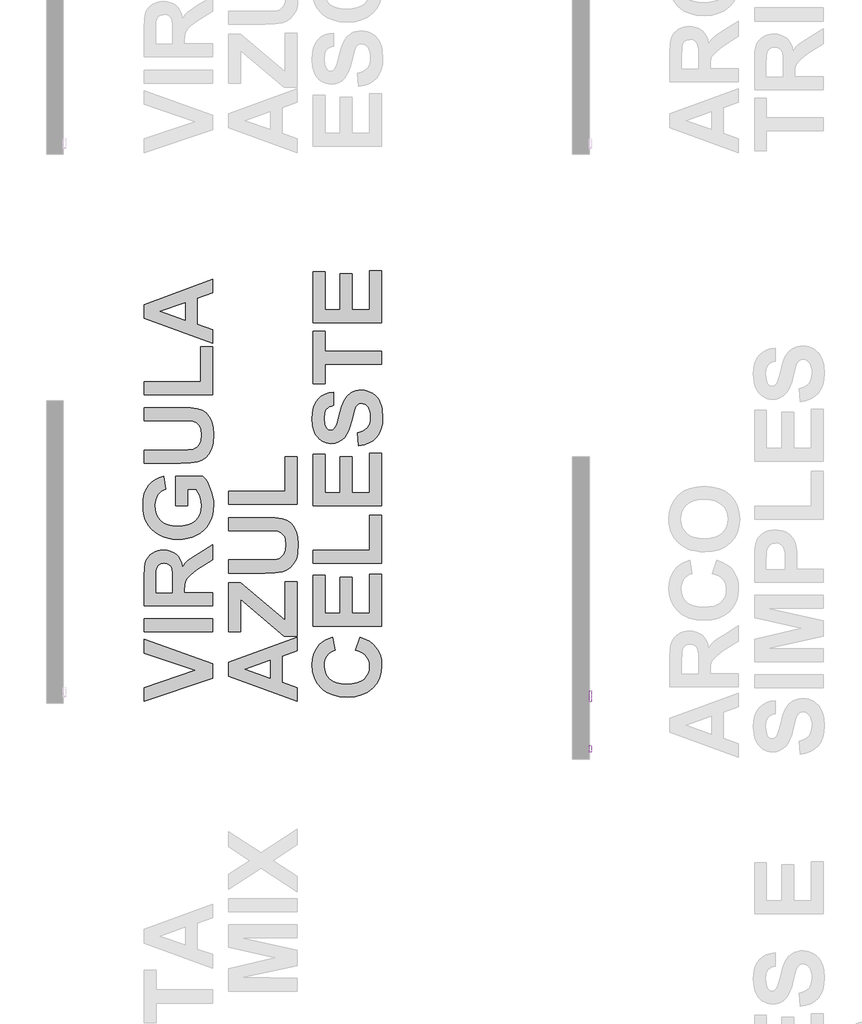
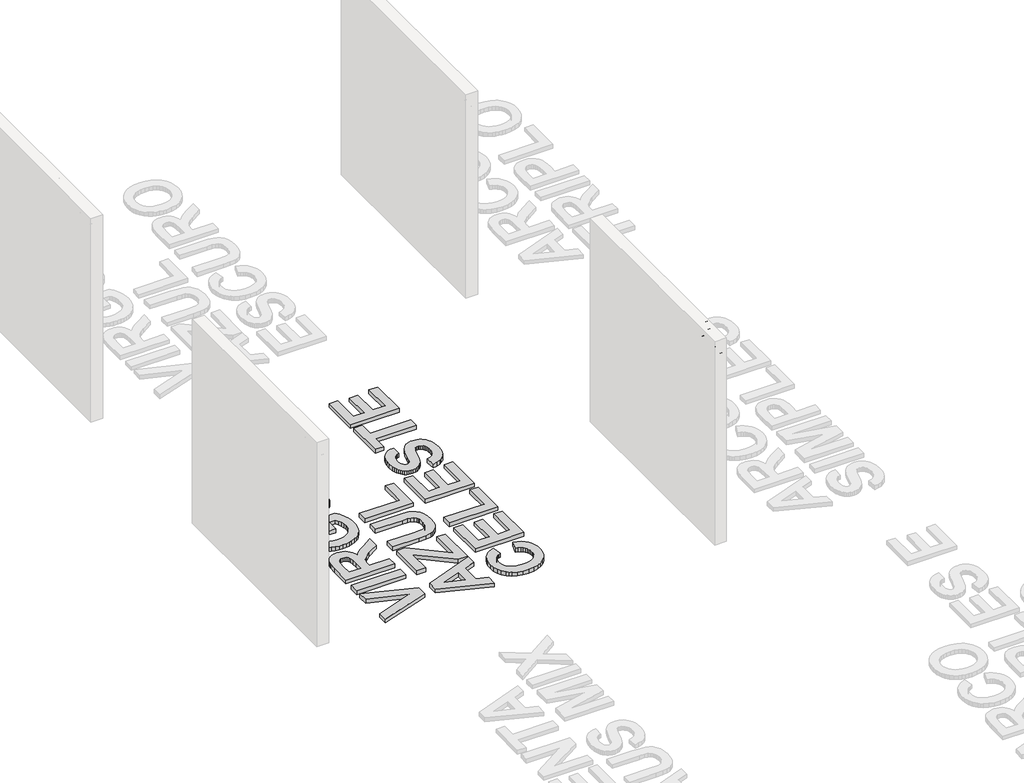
# One storey, part 7 of 12: 3 proxies.
"""IFC4 building model written with IfcOpenShell, lengths in millimetres."""

from ifc_helpers import new_model, si_unit, frame, origin, origin_with_axes, place, context, project, spatial, polyline, outline, extrude, element, save

model = new_model("IFC4")

# Units and contexts
model_context = context("Model", 3, world=origin())
ifc_project = project(units=[si_unit("LENGTHUNIT", "METRE", prefix="MILLI")], contexts=[model_context])

# Site, building, storey
site = spatial("IfcSite", under=ifc_project)
building = spatial("IfcBuilding", under=site)
storey = spatial("IfcBuildingStorey", under=building, Name="PORTOBELLO - SHOWROOM", Elevation=0.0)

# Proxies
placement = place(None, origin())
element("IfcBuildingElementProxy", 1, Name="10mm Arial", ObjectType="10mm Arial", at=placement, inside=storey, context=model_context, shape_type="SweptSolid", body=[
    extrude(outline(polyline([(-3776.6101833, 2548.8308244), (-3736.5110458, 2649.2871345), (-3725.8179425, 2649.2871345), (-3685.718805, 2548.8308244), (-3698.9870823, 2548.8308244), (-3710.489526, 2580.2234213), (-3751.8639877, 2580.2234213), (-3763.341906, 2548.8308244), (-3776.6101833, 2548.8308244)]), holes=[polyline([(-3747.2532, 2592.7804601), (-3715.0757882, 2592.7804601), (-3724.1256853, 2617.4776047), (-3731.1644941, 2636.7300958), (-3737.418488, 2619.6358457), (-3747.2532, 2592.7804601)])]), frame((13302.9163978, 0.0, 0.0), z_axis=(1.0, 0.0, 0.0), x_axis=(0.0, 1.0, 0.0)), (0.0, 0.0, 1.0), 20.0),
    extrude(outline(polyline([(-3673.8730047, 2548.8308244), (-3673.8730047, 2622.6034272), (-3662.8855958, 2622.6034272), (-3662.8855958, 2611.6895946), (-3655.0864975, 2621.7450358), (-3647.2383483, 2624.173057), (-3634.6322586, 2620.2980333), (-3638.8261133, 2609.0408443), (-3647.6552812, 2611.6160182), (-3654.7554037, 2609.1389461), (-3659.2803523, 2602.2718156), (-3661.315966, 2587.6055867), (-3661.315966, 2548.8308244), (-3673.8730047, 2548.8308244)])), frame((13302.9163978, 0.0, 0.0), z_axis=(1.0, 0.0, 0.0), x_axis=(0.0, 1.0, 0.0)), (0.0, 0.0, 1.0), 20.0),
    extrude(outline(polyline([(-3579.695214, 2575.5145318), (-3567.1381752, 2573.9449019), (-3570.6391855, 2562.7766177), (-3577.2181419, 2554.3367916), (-3586.2557762, 2549.0300938), (-3597.1328205, 2547.2611945), (-3610.4900027, 2549.7290696), (-3620.9347856, 2557.1326947), (-3627.6762232, 2569.1471076), (-3629.923369, 2585.4473456), (-3626.0851336, 2606.3062548), (-3614.3864861, 2619.7094221), (-3597.3044988, 2624.173057), (-3586.6941689, 2622.6402154), (-3578.2114233, 2618.0416904), (-3572.1260419, 2610.6227368), (-3568.707805, 2600.6286093), (-3581.2648438, 2599.0589795), (-3587.0896421, 2608.4644958), (-3597.2063969, 2611.6160182), (-3605.3212606, 2610.0647825), (-3611.7622612, 2605.4110752), (-3615.965313, 2597.4035105), (-3617.3663303, 2585.7907022), (-3615.9959698, 2574.021544), (-3611.8848885, 2565.9863881), (-3605.5603839, 2561.360272), (-3597.5497535, 2559.8182333), (-3585.716216, 2563.6687315), (-3579.695214, 2575.5145318)])), frame((13302.9163978, 0.0, 0.0), z_axis=(1.0, 0.0, 0.0), x_axis=(0.0, 1.0, 0.0)), (0.0, 0.0, 1.0), 20.0),
    extrude(outline(polyline([(-3559.290026, 2585.7171258), (-3556.5738306, 2603.5042202), (-3548.4252444, 2616.0060767), (-3538.3575404, 2622.1313119), (-3526.3032737, 2624.173057), (-3513.1116385, 2621.6867878), (-3502.574885, 2614.2279804), (-3495.6679006, 2602.3852458), (-3493.3655724, 2586.7471954), (-3497.4367999, 2564.4044955), (-3509.2948628, 2551.7616176), (-3526.3032737, 2547.2611945), (-3539.6543245, 2549.7382666), (-3550.1788152, 2557.1694829), (-3557.0122233, 2569.2605379), (-3559.290026, 2585.7171258)]), holes=[polyline([(-3546.7329872, 2585.7416512), (-3545.2798533, 2574.3771633), (-3540.9204517, 2566.2806937), (-3534.3598894, 2561.4338484), (-3526.3032737, 2559.8182333), (-3518.2834462, 2561.4430455), (-3511.7351467, 2566.3174819), (-3507.3757451, 2574.5212504), (-3505.9226112, 2586.1340587), (-3507.3849421, 2597.1674529), (-3511.7719349, 2605.1535578), (-3518.3294315, 2610.0004031), (-3526.3032737, 2611.6160182), (-3534.3598894, 2610.0065345), (-3540.9204517, 2605.1780833), (-3545.2798533, 2597.1000078), (-3546.7329872, 2585.7416512)])]), frame((13302.9163978, 0.0, 0.0), z_axis=(1.0, 0.0, 0.0), x_axis=(0.0, 1.0, 0.0)), (0.0, 0.0, 1.0), 20.0),
    extrude(outline(polyline([(-3443.1374174, 2583.362681), (-3430.5803786, 2583.362681), (-3426.5336766, 2570.7933795), (-3416.6499137, 2562.8471284), (-3401.5912774, 2559.8182333), (-3388.4701529, 2562.1113644), (-3379.9966043, 2568.4144093), (-3377.2129638, 2576.838907), (-3379.2976285, 2584.6747934), (-3387.8324908, 2590.3769644), (-3406.1162259, 2595.171693), (-3425.7979127, 2601.3643733), (-3436.4787532, 2610.708576), (-3439.9981577, 2623.1920383), (-3435.6448874, 2637.4045461), (-3422.9284331, 2647.4354618), (-3404.3136041, 2650.8567644), (-3384.4479764, 2647.2760463), (-3371.2042246, 2636.7546212), (-3366.2255549, 2621.0337973), (-3378.7825937, 2621.0337973), (-3381.0879875, 2628.5263273), (-3385.8949789, 2633.9341926), (-3403.8230948, 2638.2997256), (-3421.8002616, 2633.9832435), (-3427.4411189, 2623.5599203), (-3423.4434679, 2614.8533798), (-3402.940178, 2607.8390964), (-3380.7201055, 2601.5360516), (-3368.5677369, 2591.357983), (-3364.6559251, 2577.157738), (-3369.1563481, 2562.1358899), (-3382.1057944, 2551.1730064), (-3401.100768, 2547.2611945), (-3423.529307, 2551.4795747), (-3437.7172893, 2564.1837663), (-3443.1374174, 2583.362681)])), frame((13302.9163978, 0.0, 0.0), z_axis=(1.0, 0.0, 0.0), x_axis=(0.0, 1.0, 0.0)), (0.0, 0.0, 1.0), 20.0),
    extrude(outline(polyline([(13322.9163978, -3334.832958), (13322.9163978, -3347.3899968), (13302.9163978, -3347.3899968), (13302.9163978, -3334.832958), (13322.9163978, -3334.832958)])), frame((0.0, 0.0, 2636.7300958), z_axis=(0.0, 0.0, 1.0), x_axis=(1.0, 0.0, 0.0)), (0.0, 0.0, 1.0), 12.5570388),
    extrude(outline(polyline([(13322.9163978, -3334.832958), (13322.9163978, -3347.3899968), (13302.9163978, -3347.3899968), (13302.9163978, -3334.832958), (13322.9163978, -3334.832958)])), frame((0.0, 0.0, 2548.8308244), z_axis=(0.0, 0.0, 1.0), x_axis=(1.0, 0.0, 0.0)), (0.0, 0.0, 1.0), 73.7726028),
    extrude(outline(polyline([(-3315.9973998, 2548.8308244), (-3315.9973998, 2622.6034272), (-3303.4403611, 2622.6034272), (-3303.4403611, 2610.4633213), (-3294.8073969, 2620.4083979), (-3282.5201383, 2624.173057), (-3269.938574, 2620.3348215), (-3263.0223925, 2609.5804045), (-3253.2244687, 2620.5248939), (-3240.8513709, 2624.173057), (-3231.4121321, 2622.6555438), (-3224.4315712, 2618.1030041), (-3220.1181548, 2610.3928106), (-3218.6803494, 2599.402336), (-3218.6803494, 2548.8308244), (-3231.2373881, 2548.8308244), (-3231.2373881, 2594.0067334), (-3232.4023478, 2604.4913703), (-3236.620728, 2609.6539809), (-3243.7944269, 2611.6160182), (-3256.1429992, 2606.5882976), (-3259.8310162, 2600.0461295), (-3261.0603552, 2590.4750662), (-3261.0603552, 2548.8308244), (-3273.617394, 2548.8308244), (-3273.617394, 2595.404685), (-3276.5236617, 2607.5693163), (-3286.0518054, 2611.6160182), (-3295.3469572, 2608.9182169), (-3301.5273747, 2601.0210168), (-3303.4403611, 2586.0359568), (-3303.4403611, 2548.8308244), (-3315.9973998, 2548.8308244)])), frame((13302.9163978, 0.0, 0.0), z_axis=(1.0, 0.0, 0.0), x_axis=(0.0, 1.0, 0.0)), (0.0, 0.0, 1.0), 20.0),
    extrude(outline(polyline([(-3199.8447912, 2520.5774872), (-3199.8447912, 2622.6034272), (-3187.2877524, 2622.6034272), (-3187.2877524, 2610.291643), (-3178.6057374, 2620.7027035), (-3166.8825645, 2624.173057), (-3150.9655368, 2619.3170147), (-3140.5667391, 2605.6318044), (-3137.0595974, 2586.2812115), (-3141.0204602, 2565.9373372), (-3152.5229039, 2552.0804487), (-3168.4031434, 2547.2611945), (-3179.3292386, 2550.4862934), (-3187.2877524, 2558.6410109), (-3187.2877524, 2520.5774872), (-3199.8447912, 2520.5774872)]), holes=[polyline([(-3187.2877524, 2585.1285146), (-3185.9296548, 2573.8713255), (-3181.8553617, 2565.9986508), (-3175.8435567, 2561.3633377), (-3168.6729235, 2559.8182333), (-3161.3857943, 2561.41852), (-3155.2207052, 2566.21938), (-3151.0176534, 2574.3802289), (-3149.6166361, 2586.0604823), (-3150.9839309, 2597.2563577), (-3155.0858151, 2605.239397), (-3161.088423, 2610.0218629), (-3168.1578887, 2611.6160182), (-3175.2549455, 2609.9206954), (-3181.4874797, 2604.8347268), (-3185.8376843, 2596.517528), (-3187.2877524, 2585.1285146)])]), frame((13302.9163978, 0.0, 0.0), z_axis=(1.0, 0.0, 0.0), x_axis=(0.0, 1.0, 0.0)), (0.0, 0.0, 1.0), 20.0),
    extrude(outline(polyline([(13322.9163978, -3110.37589), (13322.9163978, -3122.9329288), (13302.9163978, -3122.9329288), (13302.9163978, -3110.37589), (13322.9163978, -3110.37589)])), frame((0.0, 0.0, 2548.8308244), z_axis=(0.0, 0.0, 1.0), x_axis=(1.0, 0.0, 0.0)), (0.0, 0.0, 1.0), 100.4563101),
    extrude(outline(polyline([(-3039.8896997, 2570.8056422), (-3027.5779156, 2569.2360124), (-3032.0139593, 2559.9592547), (-3039.0926221, 2553.0246791), (-3048.6544883, 2548.7020657), (-3060.5401424, 2547.2611945), (-3075.2738163, 2549.7474637), (-3086.6107131, 2557.2062711), (-3093.8395943, 2569.1532389), (-3096.2492214, 2585.1039891), (-3093.8150688, 2601.5912339), (-3086.5126112, 2613.9214121), (-3075.3289986, 2621.6101458), (-3061.2513809, 2624.173057), (-3047.6121559, 2621.6162771), (-3036.7136518, 2613.9459375), (-3029.5675441, 2601.6402848), (-3027.1855081, 2585.1775655), (-3027.2590845, 2581.7930512), (-3083.6921826, 2581.7930512), (-3081.5186132, 2572.3936662), (-3076.4694328, 2565.483616), (-3069.1823036, 2561.234579), (-3060.2948877, 2559.8182333), (-3047.9831036, 2562.4424582), (-3039.8896997, 2570.8056422)]), holes=[polyline([(-3083.6921826, 2594.3500899), (-3039.7425469, 2594.3500899), (-3044.7702675, 2605.7299063), (-3052.0911192, 2610.1444902), (-3061.3004318, 2611.6160182), (-3076.7637384, 2606.9193914), (-3081.6289778, 2601.4287526), (-3083.6921826, 2594.3500899)])]), frame((13302.9163978, 0.0, 0.0), z_axis=(1.0, 0.0, 0.0), x_axis=(0.0, 1.0, 0.0)), (0.0, 0.0, 1.0), 20.0),
    extrude(outline(polyline([(-3019.3373589, 2570.8056422), (-3006.7803201, 2572.3752721), (-3000.9677846, 2563.0555949), (-2987.6504564, 2559.8182333), (-2974.848163, 2562.7858147), (-2970.6788337, 2569.7510472), (-2974.8726884, 2575.3919044), (-2987.7976092, 2578.9726225), (-3006.7067438, 2585.1162518), (-3014.9595632, 2592.2899507), (-3017.7677291, 2602.4189683), (-3015.5113862, 2611.7754338), (-3009.3554941, 2618.9246072), (-3001.3724548, 2622.6402154), (-2990.5689869, 2624.173057), (-2975.2896214, 2621.7082476), (-2965.5775367, 2615.0373208), (-2961.2610546, 2603.767869), (-2973.8180934, 2602.1982392), (-2978.5392457, 2609.1266834), (-2989.5879682, 2611.6160182), (-3001.6054468, 2609.237048), (-3005.2106903, 2603.6942926), (-3003.7146369, 2600.0399981), (-2999.0302728, 2597.2686204), (-2988.2145421, 2594.5953446), (-2969.7836542, 2588.6847072), (-2961.2242664, 2581.9892549), (-2958.1217949, 2571.0754224), (-2961.7638267, 2559.0579439), (-2972.272989, 2550.3391406), (-2987.8221347, 2547.2611945), (-3000.4834067, 2548.7449853), (-3009.7233761, 2553.1963574), (-3015.8915309, 2560.56626), (-3019.3373589, 2570.8056422)])), frame((13302.9163978, 0.0, 0.0), z_axis=(1.0, 0.0, 0.0), x_axis=(0.0, 1.0, 0.0)), (0.0, 0.0, 1.0), 20.0),
])
element("IfcBuildingElementProxy", 2, Name="10mm Arial Narrow", ObjectType="10mm Arial Narrow", at=placement, inside=storey, context=model_context, shape_type="SweptSolid", body=[
    extrude(outline(polyline([(-3767.7764767, 2398.8308244), (-3767.7764767, 2499.5494281), (-3736.479592, 2499.5494281), (-3720.1838905, 2497.6711074), (-3708.7109044, 2488.1906642), (-3704.4212259, 2471.1715554), (-3706.2075343, 2459.0957299), (-3711.5664595, 2449.4693361), (-3721.3102484, 2443.1680777), (-3736.2511476, 2441.0676582), (-3758.029515, 2441.0676582), (-3758.029515, 2398.8308244), (-3767.7764767, 2398.8308244)]), holes=[polyline([(-3758.029515, 2452.4391135), (-3735.0581601, 2452.4391135), (-3719.1939647, 2456.9699277), (-3714.1681876, 2470.6385184), (-3716.6430021, 2480.8042949), (-3722.6206309, 2486.6042447), (-3735.2866045, 2488.1779729), (-3758.029515, 2488.1779729), (-3758.029515, 2452.4391135)])]), frame((13302.9163978, 0.0, 0.0), z_axis=(1.0, 0.0, 0.0), x_axis=(0.0, 1.0, 0.0)), (0.0, 0.0, 1.0), 20.0),
    extrude(outline(polyline([(-3696.2987579, 2435.3819306), (-3694.344289, 2451.9727061), (-3688.4808824, 2463.9247909), (-3679.6223157, 2471.1493455), (-3668.6823665, 2473.5575304), (-3657.869331, 2471.1493455), (-3648.9853815, 2463.9247909), (-3643.0458268, 2452.1630765), (-3641.0659752, 2436.143412), (-3643.0109255, 2418.9815254), (-3648.8457766, 2406.8390702), (-3657.6948248, 2399.6145156), (-3668.6823665, 2397.2063308), (-3679.5429947, 2399.6208613), (-3688.4174256, 2406.8644529), (-3694.3284248, 2418.8228834), (-3696.2987579, 2435.3819306)]), holes=[polyline([(-3686.5517962, 2435.4073133), (-3685.2477594, 2422.8555619), (-3681.3356488, 2413.9843038), (-3675.494452, 2408.7110453), (-3668.4031567, 2406.9532924), (-3661.6830835, 2408.7269095), (-3655.9910102, 2414.0477606), (-3652.1074552, 2422.9348829), (-3650.8129368, 2435.4073133), (-3652.1169737, 2447.9209906), (-3656.0290843, 2456.7795573), (-3661.870281, 2462.0528159), (-3668.9615764, 2463.8105687), (-3675.7292421, 2462.0432974), (-3681.4117969, 2456.7414833), (-3685.2667964, 2447.873398), (-3686.5517962, 2435.4073133)])]), frame((13302.9163978, 0.0, 0.0), z_axis=(1.0, 0.0, 0.0), x_axis=(0.0, 1.0, 0.0)), (0.0, 0.0, 1.0), 20.0),
    extrude(outline(polyline([(-3569.5882564, 2406.9532924), (-3567.9637628, 2397.2063308), (-3575.3247495, 2397.2063308), (-3583.5995138, 2399.3257873), (-3587.9145749, 2405.1257371), (-3589.0821797, 2419.7715623), (-3589.0821797, 2462.1860751), (-3597.2046478, 2462.1860751), (-3597.2046478, 2465.4350624), (-3598.8291414, 2460.5615815), (-3606.3931897, 2462.1860751), (-3612.4723494, 2459.8635569), (-3616.3432131, 2453.3782738), (-3618.3230647, 2437.9709673), (-3618.3230647, 2398.8308244), (-3628.0700263, 2398.8308244), (-3628.0700263, 2471.9330368), (-3618.3230647, 2471.9330368), (-3618.3230647, 2462.2368406), (-3612.0789174, 2471.3238517), (-3605.6824738, 2473.5575304), (-3597.2046478, 2471.9330368), (-3589.0821797, 2471.9330368), (-3589.0821797, 2488.1779729), (-3579.3352181, 2496.3004409), (-3579.3352181, 2471.9330368), (-3569.5882564, 2471.9330368), (-3569.5882564, 2462.1860751), (-3579.3352181, 2462.1860751), (-3579.3352181, 2417.5378836), (-3578.4722058, 2409.5423291), (-3573.8525521, 2406.9532924), (-3569.5882564, 2406.9532924)])), frame((13302.9163978, 0.0, 0.0), z_axis=(1.0, 0.0, 0.0), x_axis=(0.0, 1.0, 0.0)), (0.0, 0.0, 1.0), 20.0),
    extrude(outline(polyline([(-3563.090282, 2435.3819306), (-3561.1358131, 2451.9727061), (-3555.2724065, 2463.9247909), (-3546.4138398, 2471.1493455), (-3535.4738906, 2473.5575304), (-3524.660855, 2471.1493455), (-3515.7769056, 2463.9247909), (-3509.8373508, 2452.1630765), (-3507.8574993, 2436.143412), (-3509.8024496, 2418.9815254), (-3515.6373007, 2406.8390702), (-3524.4863489, 2399.6145156), (-3535.4738906, 2397.2063308), (-3546.3345188, 2399.6208613), (-3555.2089497, 2406.8644529), (-3561.1199489, 2418.8228834), (-3563.090282, 2435.3819306)]), holes=[polyline([(-3553.3433203, 2435.4073133), (-3552.0392834, 2422.8555619), (-3548.1271729, 2413.9843038), (-3542.2859761, 2408.7110453), (-3535.1946808, 2406.9532924), (-3528.4746076, 2408.7269095), (-3522.7825343, 2414.0477606), (-3518.8989793, 2422.9348829), (-3517.6044609, 2435.4073133), (-3518.9084978, 2447.9209906), (-3522.8206084, 2456.7795573), (-3528.6618051, 2462.0528159), (-3535.7531005, 2463.8105687), (-3542.5207662, 2462.0432974), (-3548.203321, 2456.7414833), (-3552.0583205, 2447.873398), (-3553.3433203, 2435.4073133)])]), frame((13302.9163978, 0.0, 0.0), z_axis=(1.0, 0.0, 0.0), x_axis=(0.0, 1.0, 0.0)), (0.0, 0.0, 1.0), 20.0),
    extrude(outline(polyline([(-3485.1145887, 2398.8308244), (-3494.8615504, 2398.8308244), (-3494.8615504, 2499.5494281), (-3485.1145887, 2499.5494281), (-3485.1145887, 2464.140544), (-3477.715528, 2471.2223208), (-3468.5142947, 2473.5575304), (-3455.632568, 2469.3566915), (-3446.3551865, 2456.6272611), (-3442.8777549, 2435.9403503), (-3444.8100139, 2419.4860068), (-3450.6067909, 2407.2832677), (-3458.9799132, 2399.725565), (-3468.6412082, 2397.2063308), (-3477.9820465, 2399.8207502), (-3485.1145887, 2407.5878602), (-3485.1145887, 2398.8308244)]), holes=[polyline([(-3485.1145887, 2435.9403503), (-3483.0332063, 2418.692797), (-3477.144417, 2409.9611439), (-3468.6919737, 2406.9532924), (-3462.7492461, 2408.7427737), (-3457.5108887, 2414.1112174), (-3452.6247166, 2435.5342269), (-3457.3332098, 2456.9699277), (-3462.5779128, 2462.1004085), (-3468.8950354, 2463.8105687), (-3474.8726642, 2462.0210875), (-3480.1649598, 2456.6526438), (-3485.1145887, 2435.9403503)])]), frame((13302.9163978, 0.0, 0.0), z_axis=(1.0, 0.0, 0.0), x_axis=(0.0, 1.0, 0.0)), (0.0, 0.0, 1.0), 20.0),
    extrude(outline(polyline([(-3390.8939594, 2421.5737349), (-3381.1469978, 2419.9492413), (-3384.8465281, 2410.0626747), (-3390.665515, 2402.9428238), (-3398.3691683, 2398.640454), (-3407.7226979, 2397.2063308), (-3419.3162519, 2399.6208613), (-3428.4603741, 2406.8644529), (-3434.3999289, 2418.6705872), (-3436.3797805, 2434.7727455), (-3434.3904104, 2451.4396692), (-3428.4223001, 2463.6201984), (-3419.4082642, 2471.0731974), (-3408.2811176, 2473.5575304), (-3397.5981684, 2471.1588641), (-3388.8506511, 2463.962865), (-3383.0158, 2452.2233604), (-3381.0708496, 2436.1941774), (-3381.1469978, 2432.9451902), (-3426.6328188, 2432.9451902), (-3420.6298073, 2413.5020323), (-3414.699771, 2408.5904774), (-3407.5957843, 2406.9532924), (-3397.4173166, 2410.608403), (-3390.8939594, 2421.5737349)]), holes=[polyline([(-3425.9728683, 2442.6921518), (-3390.8939594, 2442.6921518), (-3395.1582551, 2456.9572363), (-3400.9835877, 2462.0972356), (-3408.2049694, 2463.8105687), (-3420.4140542, 2458.0994584), (-3425.9728683, 2442.6921518)])]), frame((13302.9163978, 0.0, 0.0), z_axis=(1.0, 0.0, 0.0), x_axis=(0.0, 1.0, 0.0)), (0.0, 0.0, 1.0), 20.0),
    extrude(outline(polyline([(13322.9163978, -3358.4040872), (13322.9163978, -3368.1510489), (13302.9163978, -3368.1510489), (13302.9163978, -3358.4040872), (13322.9163978, -3358.4040872)])), frame((0.0, 0.0, 2398.8308244), z_axis=(0.0, 0.0, 1.0), x_axis=(1.0, 0.0, 0.0)), (0.0, 0.0, 1.0), 100.7186038),
    extrude(outline(polyline([(13322.9163978, -3332.4121895), (13322.9163978, -3342.1591512), (13302.9163978, -3342.1591512), (13302.9163978, -3332.4121895), (13322.9163978, -3332.4121895)])), frame((0.0, 0.0, 2398.8308244), z_axis=(0.0, 0.0, 1.0), x_axis=(1.0, 0.0, 0.0)), (0.0, 0.0, 1.0), 100.7186038),
    extrude(outline(polyline([(-3321.0407342, 2435.3819306), (-3319.0862654, 2451.9727061), (-3313.2228587, 2463.9247909), (-3304.364292, 2471.1493455), (-3293.4243429, 2473.5575304), (-3282.6113073, 2471.1493455), (-3273.7273579, 2463.9247909), (-3267.7878031, 2452.1630765), (-3265.8079515, 2436.143412), (-3267.7529019, 2418.9815254), (-3273.587753, 2406.8390702), (-3282.4368012, 2399.6145156), (-3293.4243429, 2397.2063308), (-3304.2849711, 2399.6208613), (-3313.159402, 2406.8644529), (-3319.0704012, 2418.8228834), (-3321.0407342, 2435.3819306)]), holes=[polyline([(-3311.2937726, 2435.4073133), (-3309.9897357, 2422.8555619), (-3306.0776251, 2413.9843038), (-3300.2364284, 2408.7110453), (-3293.145133, 2406.9532924), (-3286.4250599, 2408.7269095), (-3280.7329866, 2414.0477606), (-3276.8494315, 2422.9348829), (-3275.5549132, 2435.4073133), (-3276.85895, 2447.9209906), (-3280.7710606, 2456.7795573), (-3286.6122574, 2462.0528159), (-3293.7035527, 2463.8105687), (-3300.4712185, 2462.0432974), (-3306.1537733, 2456.7414833), (-3310.0087728, 2447.873398), (-3311.2937726, 2435.4073133)])]), frame((13302.9163978, 0.0, 0.0), z_axis=(1.0, 0.0, 0.0), x_axis=(0.0, 1.0, 0.0)), (0.0, 0.0, 1.0), 20.0),
])
element("IfcBuildingElementProxy", 3, Name="600mm Arial", ObjectType="600mm Arial", at=placement, inside=storey, context=model_context, shape_type="SweptSolid", body=[
    extrude(outline(polyline([(9936.2154342, -3105.3236242), (9324.0597942, -3311.652869), (9324.0597942, -3188.6751734), (9780.7473352, -3034.7253175), (9324.0597942, -2880.3199887), (9324.0597942, -2757.7977661), (9936.2154342, -2975.0583616), (9936.2154342, -3105.3236242)])), origin_with_axes(), (0.0, 0.0, 1.0), 50.0),
    extrude(outline(polyline([(9936.2154342, -2689.7804728), (9324.0597942, -2689.7804728), (9324.0597942, -2573.1793985), (9936.2154342, -2573.1793985), (9936.2154342, -2689.7804728)])), origin_with_axes(), (0.0, 0.0, 1.0), 50.0),
    extrude(outline(polyline([(9936.2154342, -2456.5783242), (9324.0597942, -2456.5783242), (9324.0597942, -2199.0842852), (9328.1970068, -2115.2013509), (9333.3685226, -2083.2233545), (9340.6086446, -2057.8876718), (9350.4962032, -2036.9738724), (9363.6100284, -2018.2615255), (9379.9501204, -2001.7506312), (9399.516479, -1987.4411894), (9421.4645816, -1975.8835634), (9444.9499054, -1967.6281163), (9469.9724504, -1962.674848), (9496.5322166, -1961.0237585), (9529.6394064, -1963.410247), (9559.7290879, -1970.5697124), (9586.8012612, -1982.5021547), (9610.8559262, -1999.2075739), (9631.3142527, -2020.666992), (9647.5974105, -2046.8614309), (9659.7053997, -2077.7908907), (9667.6382201, -2113.4553713), (9692.0060228, -2079.636505), (9718.6511901, -2052.2701721), (9757.2525223, -2023.9549373), (9817.4888195, -1987.2893651), (9936.2154342, -1912.4399776), (9936.2154342, -2048.6263886), (9796.3852397, -2137.2917888), (9742.6963661, -2180.1252238), (9713.4132513, -2206.9032374), (9699.0089193, -2226.2228816), (9689.9563945, -2246.6812081), (9685.1739286, -2273.8387825), (9683.5797733, -2313.2561704), (9683.5797733, -2339.9772499), (9936.2154342, -2339.9772499), (9936.2154342, -2456.5783242)]), holes=[polyline([(9576.6954552, -2339.9772499), (9576.6954552, -2243.8724583), (9574.9304975, -2168.0172346), (9569.6356245, -2127.1954718), (9560.0327366, -2106.4334967), (9545.343734, -2090.7576361), (9525.9671558, -2080.9080336), (9502.3015406, -2077.6248328), (9476.0928681, -2081.9518258), (9455.4637393, -2094.9328048), (9440.907583, -2115.8086482), (9432.9178284, -2143.8202344), (9430.9441123, -2238.5586072), (9430.9441123, -2339.9772499), (9576.6954552, -2339.9772499)])]), origin_with_axes(), (0.0, 0.0, 1.0), 50.0),
    extrude(outline(polyline([(9712.7300418, -1562.6367547), (9605.8457237, -1562.6367547), (9605.8457237, -1300.2843376), (9849.979223, -1300.2843376), (9868.4590889, -1321.5587198), (9885.7907834, -1347.1221389), (9917.0096583, -1411.1160879), (9929.6632661, -1447.5159675), (9938.7015574, -1484.1435836), (9944.1245321, -1520.9989362), (9945.9321904, -1558.0820253), (9943.4176002, -1603.7906333), (9935.8738295, -1646.481733), (9923.3008784, -1686.1553244), (9905.6987468, -1722.8114076), (9883.423273, -1755.7762621), (9856.8302953, -1784.3761675), (9825.9198135, -1808.6111238), (9790.6918278, -1828.4811311), (9752.4842899, -1843.9577223), (9712.6351516, -1855.0124303), (9671.1444129, -1861.645255), (9628.0120738, -1863.8561966), (9581.662957, -1861.3558399), (9537.9612767, -1853.8547699), (9496.9070329, -1841.3529864), (9458.5002256, -1823.8504895), (9423.5758885, -1801.5275706), (9392.9690554, -1774.5645211), (9366.6797263, -1742.9613409), (9344.7079011, -1706.7180301), (9331.4232735, -1675.5371113), (9321.9342538, -1640.7503651), (9316.240842, -1602.3577913), (9314.343038, -1560.35939), (9317.4079914, -1506.6088378), (9326.6028515, -1459.0735936), (9341.9276184, -1417.7536572), (9363.3822919, -1382.6490288), (9390.2457068, -1353.5035047), (9421.7966973, -1330.0608815), (9458.0352636, -1312.3211591), (9498.9614057, -1300.2843376), (9518.394918, -1416.8854119), (9497.0398792, -1425.2072822), (9478.0665842, -1436.5087047), (9461.4750333, -1450.7896793), (9447.2652262, -1468.0502062), (9435.8736581, -1487.9676586), (9427.7368237, -1510.2194098), (9422.854723, -1534.8054599), (9421.2273561, -1561.7258089), (9424.4061777, -1602.0636317), (9433.9426426, -1638.0554835), (9449.8367506, -1669.7013642), (9472.0885018, -1697.0012739), (9500.6030061, -1718.9873326), (9535.2853731, -1734.6916602), (9576.135603, -1744.1142568), (9623.1536957, -1747.2551224), (9673.7538933, -1744.1332349), (9717.607398, -1734.7675724), (9754.7142096, -1719.158135), (9785.0743282, -1697.3049226), (9808.6877537, -1670.3845736), (9825.5544863, -1639.5737266), (9835.6745258, -1604.8723815), (9839.0478723, -1566.2805383), (9835.3471546, -1526.2558531), (9824.2450015, -1486.0413876), (9807.8669535, -1448.5977158), (9788.3385509, -1416.8854119), (9712.7300418, -1416.8854119), (9712.7300418, -1562.6367547)])), origin_with_axes(), (0.0, 0.0, 1.0), 50.0),
    extrude(outline(polyline([(9324.0597942, -1183.6832633), (9324.0597942, -1067.0821891), (9654.2776804, -1067.0821891), (9719.1066631, -1065.8296384), (9756.3036204, -1062.0719866), (9774.0623208, -1056.2552176), (9789.9896404, -1047.4588963), (9804.0855792, -1035.6830228), (9816.3501371, -1020.9275971), (9826.2803963, -1003.1926193), (9833.3734385, -982.4780893), (9839.0478723, -932.1103726), (9833.6960652, -881.7995901), (9827.0063063, -861.9533053), (9817.6406438, -845.6464249), (9793.7852483, -822.3603706), (9765.0335185, -810.6509202), (9723.5285463, -806.210059), (9661.4134232, -804.7297719), (9324.0597942, -804.7297719), (9324.0597942, -688.1286976), (9645.1682215, -688.1286976), (9739.1854288, -690.6717549), (9800.7881448, -698.3009268), (9842.6726778, -712.7621928), (9877.5353363, -735.8015327), (9905.6797688, -767.7415731), (9927.4096239, -808.9049406), (9941.3015488, -861.6828683), (9945.9321904, -928.466589), (9940.8840319, -1006.6940676), (9934.5738338, -1037.7516291), (9925.7395564, -1063.4384055), (9902.5104362, -1104.6207511), (9873.2083433, -1136.1622526), (9840.0726864, -1158.3286026), (9805.3428743, -1171.3854938), (9740.2861551, -1180.6088209), (9650.1784239, -1183.6832633), (9324.0597942, -1183.6832633)])), origin_with_axes(), (0.0, 0.0, 1.0), 50.0),
    extrude(outline(polyline([(9936.2154342, -571.5276234), (9324.0597942, -571.5276234), (9324.0597942, -454.9265491), (9829.3311161, -454.9265491), (9829.3311161, -143.990351), (9936.2154342, -143.990351), (9936.2154342, -571.5276234)])), origin_with_axes(), (0.0, 0.0, 1.0), 50.0),
    extrude(outline(polyline([(9936.2154342, 458.4485328), (9936.2154342, 335.9263102), (9800.1808475, 287.9498265), (9800.1808475, 56.7213941), (9936.2154342, 9.3522076), (9936.2154342, -114.8400824), (9324.0597942, 108.6453099), (9324.0597942, 232.8376), (9936.2154342, 458.4485328)]), holes=[polyline([(9693.2965295, 250.6010449), (9469.8111371, 171.8042252), (9693.2965295, 94.0701757), (9693.2965295, 250.6010449)])]), origin_with_axes(), (0.0, 0.0, 1.0), 50.0),
    extrude(outline(polyline([(10691.6835332, -2738.3642537), (10691.6835332, -2860.8864763), (10555.6489466, -2908.86296), (10555.6489466, -3140.0913925), (10691.6835332, -3187.4605789), (10691.6835332, -3311.652869), (10079.5278933, -3088.1674766), (10079.5278933, -2963.9751865), (10691.6835332, -2738.3642537)]), holes=[polyline([(10448.7646285, -2946.2117416), (10225.2792361, -3025.0085613), (10448.7646285, -3102.7426109), (10448.7646285, -2946.2117416)])]), origin_with_axes(), (0.0, 0.0, 1.0), 50.0),
    extrude(outline(polyline([(10691.6835332, -2728.6474976), (10575.082459, -2728.6474976), (10186.4122114, -2400.5551518), (10186.4122114, -2689.7804728), (10079.5278933, -2689.7804728), (10079.5278933, -2252.5264442), (10186.4122114, -2252.5264442), (10584.7992152, -2588.817303), (10584.7992152, -2242.809688), (10691.6835332, -2242.809688), (10691.6835332, -2728.6474976)])), origin_with_axes(), (0.0, 0.0, 1.0), 50.0),
    extrude(outline(polyline([(10079.5278933, -2165.0756385), (10079.5278933, -2048.4745642), (10409.7457794, -2048.4745642), (10474.5747621, -2047.2220136), (10511.7717194, -2043.4643618), (10529.5304198, -2037.6475928), (10545.4577394, -2028.8512715), (10559.5536782, -2017.075398), (10571.8182362, -2002.3199723), (10581.7484953, -1984.5849945), (10588.8415376, -1963.8704645), (10594.5159713, -1913.5027478), (10589.1641642, -1863.1919653), (10582.4744053, -1843.3456805), (10573.1087429, -1827.0388001), (10549.2533473, -1803.7527457), (10520.5016176, -1792.0432954), (10478.9966453, -1787.6024342), (10416.8815222, -1786.1221471), (10079.5278933, -1786.1221471), (10079.5278933, -1669.5210728), (10400.6363205, -1669.5210728), (10494.6535278, -1672.0641301), (10556.2562438, -1679.693302), (10598.1407769, -1694.154568), (10633.0034353, -1717.1939079), (10661.1478678, -1749.1339483), (10682.877723, -1790.2973158), (10696.7696478, -1843.0752435), (10701.4002894, -1909.8589642), (10696.3521309, -1988.0864428), (10690.0419328, -2019.1440043), (10681.2076555, -2044.8307807), (10657.9785352, -2086.0131262), (10628.6764423, -2117.5546278), (10595.5407855, -2139.7209778), (10560.8109733, -2152.777869), (10495.7542541, -2162.0011961), (10405.6465229, -2165.0756385), (10079.5278933, -2165.0756385)])), origin_with_axes(), (0.0, 0.0, 1.0), 50.0),
    extrude(outline(polyline([(10691.6835332, -1552.9199986), (10079.5278933, -1552.9199986), (10079.5278933, -1436.3189243), (10584.7992152, -1436.3189243), (10584.7992152, -1125.3827262), (10691.6835332, -1125.3827262), (10691.6835332, -1552.9199986)])), origin_with_axes(), (0.0, 0.0, 1.0), 50.0),
    extrude(outline(polyline([(11213.9494837, -2854.965328), (11252.8165085, -2738.3642537), (11298.9189108, -2754.4671202), (11338.6921369, -2775.1436942), (11372.1361869, -2800.3939756), (11399.2510608, -2830.2179646), (11420.2075608, -2864.4923038), (11435.1764894, -2903.093636), (11444.1578466, -2946.0219612), (11447.1516323, -2993.2772794), (11442.0370507, -3051.6632177), (11426.6933058, -3104.6024587), (11401.1203976, -3152.0950024), (11365.3183263, -3194.1408488), (11320.6440214, -3228.5480343), (11268.454413, -3253.1245953), (11208.7495009, -3267.870532), (11141.5292852, -3272.7858442), (11070.646308, -3267.8278314), (11008.1516241, -3252.953793), (10954.0452337, -3228.163729), (10930.1376485, -3212.0501874), (10908.3271367, -3193.4576394), (10871.9936802, -3150.6669049), (10846.0412113, -3101.6229065), (10830.4697299, -3046.3256441), (10825.2792361, -2984.7751177), (10829.558784, -2930.9533979), (10842.3974277, -2882.4455291), (10863.7951672, -2839.2515114), (10893.7520024, -2801.3713447), (10916.155578, -2781.6626507), (10942.9810367, -2764.5919042), (10974.2283786, -2750.1591052), (11009.8976037, -2738.3642537), (11029.3311161, -2854.965328), (11007.9760772, -2862.3145738), (10989.0027823, -2872.8236631), (10972.4112313, -2886.492596), (10958.2014243, -2903.3213725), (10946.8098561, -2922.7216733), (10938.6730217, -2944.1051792), (10933.7909211, -2967.4718903), (10932.1635542, -2992.8218065), (10935.1193839, -3027.470962), (10943.9868728, -3058.6945813), (10958.766021, -3086.4926646), (10979.4568285, -3110.8652117), (11006.7614827, -3130.6925184), (11041.3821712, -3144.8548804), (11083.3188938, -3153.3522975), (11132.5716506, -3156.1847699), (11184.704325, -3153.4376987), (11228.7523545, -3145.1964851), (11264.7157392, -3131.461129), (11292.5944791, -3112.2316306), (11313.4513445, -3088.599227), (11328.3491054, -3061.6551555), (11337.287762, -3031.3994161), (11340.2673142, -2997.8320089), (11338.3647657, -2972.8426755), (11332.6571204, -2949.6467668), (11323.1443781, -2928.2442828), (11309.8265389, -2908.6352235), (11292.4189323, -2891.2465949), (11270.6368875, -2876.5054028), (11244.4804047, -2864.4116472), (11213.9494837, -2854.965328)])), origin_with_axes(), (0.0, 0.0, 1.0), 50.0),
    extrude(outline(polyline([(11447.1516323, -2641.1966918), (10834.9959923, -2641.1966918), (10834.9959923, -2184.5091509), (10941.8803104, -2184.5091509), (10941.8803104, -2524.5956176), (11077.9148971, -2524.5956176), (11077.9148971, -2203.9426633), (11184.7992152, -2203.9426633), (11184.7992152, -2524.5956176), (11340.2673142, -2524.5956176), (11340.2673142, -2174.7923947), (11447.1516323, -2174.7923947), (11447.1516323, -2641.1966918)])), origin_with_axes(), (0.0, 0.0, 1.0), 50.0),
    extrude(outline(polyline([(11447.1516323, -2077.6248328), (10834.9959923, -2077.6248328), (10834.9959923, -1961.0237585), (11340.2673142, -1961.0237585), (11340.2673142, -1650.0875605), (11447.1516323, -1650.0875605), (11447.1516323, -2077.6248328)])), origin_with_axes(), (0.0, 0.0, 1.0), 50.0),
    extrude(outline(polyline([(11447.1516323, -1562.6367547), (10834.9959923, -1562.6367547), (10834.9959923, -1105.9492138), (10941.8803104, -1105.9492138), (10941.8803104, -1446.0356805), (11077.9148971, -1446.0356805), (11077.9148971, -1125.3827262), (11184.7992152, -1125.3827262), (11184.7992152, -1446.0356805), (11340.2673142, -1446.0356805), (11340.2673142, -1096.2324576), (11447.1516323, -1096.2324576), (11447.1516323, -1562.6367547)])), origin_with_axes(), (0.0, 0.0, 1.0), 50.0),
    extrude(outline(polyline([(11243.0997523, -1028.2151643), (11233.3829961, -911.61409), (11261.4515164, -904.5542593), (11285.5346485, -894.6097667), (11305.6323922, -881.780612), (11321.7447477, -866.0667954), (11334.0994514, -847.4208716), (11342.9242397, -825.7953957), (11348.2191127, -801.1903676), (11349.9840704, -773.6057872), (11348.4231266, -744.616832), (11343.7402954, -719.4424627), (11335.9355767, -698.0826793), (11325.0089705, -680.5374819), (11311.99478, -666.8543154), (11297.9273082, -657.0806251), (11282.8065553, -651.2164109), (11266.6325212, -649.2616729), (11246.80047, -652.5069176), (11230.1187733, -662.2426519), (11216.01809, -680.100987), (11203.9290789, -707.7140343), (11177.967121, -808.8290284), (11165.2992796, -855.76172), (11151.1321732, -895.1411518), (11135.4658016, -926.9673239), (11118.300165, -951.2402363), (11091.7214208, -976.4146057), (11062.3908608, -994.396298), (11030.3084851, -1005.1853134), (10995.4742938, -1008.7816519), (10972.5488221, -1007.1305625), (10950.3824721, -1002.1772942), (10928.9752436, -993.921847), (10908.3271367, -982.364221), (10889.2636961, -967.6941965), (10872.6104665, -950.101554), (10858.3674479, -929.5862934), (10846.5346403, -906.1484147), (10837.235401, -879.9682093), (10830.5930872, -851.2259685), (10825.2792361, -786.0553811), (10828.590904, -732.1435156), (10838.5259077, -685.3389258), (10855.0842471, -645.6416119), (10878.2659222, -613.0515736), (10906.9702069, -587.464432), (10940.0963747, -568.7758076), (10977.6444257, -556.9857006), (11019.6143599, -552.094111), (11019.6143599, -668.6951853), (10997.9461834, -673.9663357), (10979.5517187, -681.581274), (10964.4309658, -691.5400002), (10952.5839246, -703.8425143), (10943.6500126, -719.0012233), (10937.2686468, -737.5285343), (10932.1635542, -784.6889623), (10937.5912735, -834.3355134), (10944.3759226, -854.6040596), (10953.8744313, -871.8361194), (10970.1955452, -887.0944631), (10991.2232129, -892.1805776), (11011.0742422, -887.549936), (11027.812873, -873.6580111), (11037.5343737, -857.6927355), (11047.4171877, -833.3296773), (11067.6667558, -759.4102138), (11088.7323795, -680.5185038), (11110.7848614, -625.273431), (11137.4869628, -586.5582306), (11172.5014456, -557.2561377), (11193.2349537, -546.4955893), (11216.2648045, -538.8094834), (11241.5909982, -534.1978198), (11269.2135346, -532.6605986), (11294.9098, -534.4777459), (11319.7710316, -539.9291877), (11343.7972295, -549.0149241), (11366.9883937, -561.734955), (11388.300732, -577.7808874), (11406.6904522, -596.844328), (11422.1575544, -618.9252768), (11434.7020384, -644.023734), (11444.3998166, -672.2678012), (11451.326801, -703.7855802), (11456.8683885, -776.6422736), (11453.4570859, -831.1282248), (11443.2231781, -878.89595), (11426.1666652, -919.9454493), (11402.2875471, -954.2767227), (11371.8704944, -982.1269955), (11335.2001777, -1003.7334934), (11292.276597, -1019.0962163), (11243.0997523, -1028.2151643)])), origin_with_axes(), (0.0, 0.0, 1.0), 50.0),
    extrude(outline(polyline([(11447.1516323, -299.45845), (10941.8803104, -299.45845), (10941.8803104, -474.3600615), (10834.9959923, -474.3600615), (10834.9959923, -7.9557643), (10941.8803104, -7.9557643), (10941.8803104, -182.8573758), (11447.1516323, -182.8573758), (11447.1516323, -299.45845)])), origin_with_axes(), (0.0, 0.0, 1.0), 50.0),
    extrude(outline(polyline([(11447.1516323, 69.7782852), (10834.9959923, 69.7782852), (10834.9959923, 526.4658261), (10941.8803104, 526.4658261), (10941.8803104, 186.3793595), (11077.9148971, 186.3793595), (11077.9148971, 507.0323137), (11184.7992152, 507.0323137), (11184.7992152, 186.3793595), (11340.2673142, 186.3793595), (11340.2673142, 536.1825823), (11447.1516323, 536.1825823), (11447.1516323, 69.7782852)])), origin_with_axes(), (0.0, 0.0, 1.0), 50.0),
])

save(model, "model.ifc")
